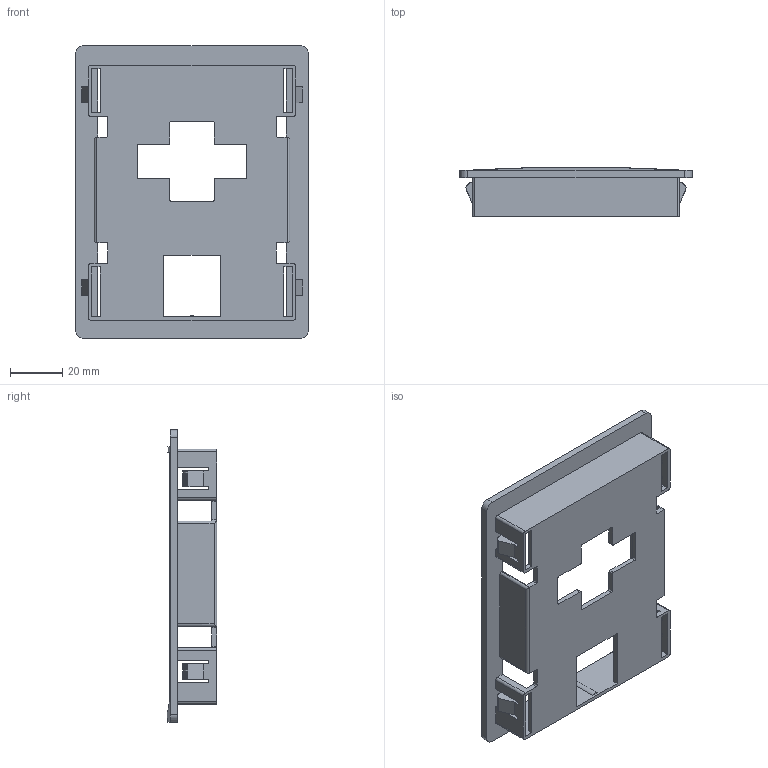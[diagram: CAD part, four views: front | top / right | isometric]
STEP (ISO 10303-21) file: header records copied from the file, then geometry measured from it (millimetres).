
FILE_DESCRIPTION(('STEP AP203'), '1');
FILE_NAME('Ðàìêà ìîíòàæíàÿ _ VCI-MF', '', ('UNSPECIFIED'), ('UNSPECIFIED'), 'C3D Converter', 'C3D Toolkit', '');
FILE_SCHEMA(('CONFIG_CONTROL_DESIGN'));
Length unit declared in the file: millimetre
Products named in the file (1): VCI-MF
Bounding box: 89 x 18.88 x 112 mm (x, y, z)
Volume: 25019.4 mm3; surface area: 29317 mm2
Topology: 1 solids, 1 shells, 206 faces, 660 edges, 435 vertices
Faces by surface type: plane 126, cylinder 74, torus 6
Entity records: 9637 total; most frequent: CARTESIAN_POINT 2005, ORIENTED_EDGE 1312, DIRECTION 1196, EDGE_CURVE 656, LINE 502, VECTOR 502, VERTEX_POINT 433, AXIS2_PLACEMENT_3D 347
